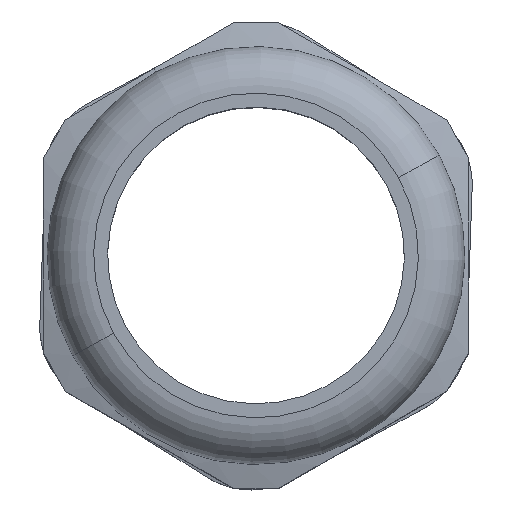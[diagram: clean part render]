
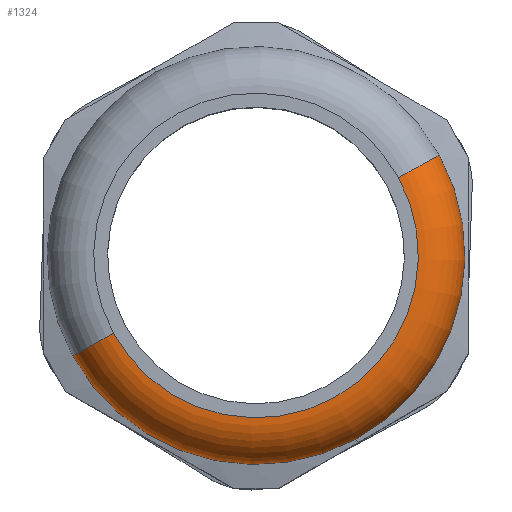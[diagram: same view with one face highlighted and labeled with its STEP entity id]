
A CAD part, top view. The second image highlights one B-rep face of the part: STEP entity #1324.
In plain terms, the highlighted toroidal (fillet/blend) face has major radius 20.9 mm and minor radius 6 mm.
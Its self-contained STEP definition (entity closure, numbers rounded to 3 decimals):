
#1259=CARTESIAN_POINT('Axis2P3D Location',(0.,0.,48.5)) ;
#1263=CARTESIAN_POINT('Vertex',(-18.341,-10.02,48.5)) ;
#1265=CARTESIAN_POINT('Vertex',(18.341,10.02,48.5)) ;
#1294=CARTESIAN_POINT('Axis2P3D Location',(0.,0.,42.5)) ;
#1299=CARTESIAN_POINT('Axis2P3D Location',(-18.341,-10.02,42.5)) ;
#1303=CARTESIAN_POINT('Vertex',(-23.607,-12.897,42.5)) ;
#1306=CARTESIAN_POINT('Axis2P3D Location',(0.,0.,42.5)) ;
#1310=CARTESIAN_POINT('Vertex',(23.607,12.897,42.5)) ;
#1313=CARTESIAN_POINT('Axis2P3D Location',(18.341,10.02,42.5)) ;
#1260=DIRECTION('Axis2P3D Direction',(0.,0.,1.)) ;
#1295=DIRECTION('Axis2P3D Direction',(0.,0.,1.)) ;
#1296=DIRECTION('Axis2P3D XDirection',(0.878,0.479,0.)) ;
#1300=DIRECTION('Axis2P3D Direction',(-0.479,0.878,0.)) ;
#1307=DIRECTION('Axis2P3D Direction',(0.,0.,1.)) ;
#1314=DIRECTION('Axis2P3D Direction',(0.479,-0.878,0.)) ;
#1261=AXIS2_PLACEMENT_3D('Circle Axis2P3D',#1259,#1260,$) ;
#1297=AXIS2_PLACEMENT_3D('Torus Axis2P3D',#1294,#1295,#1296) ;
#1301=AXIS2_PLACEMENT_3D('Circle Axis2P3D',#1299,#1300,$) ;
#1308=AXIS2_PLACEMENT_3D('Circle Axis2P3D',#1306,#1307,$) ;
#1315=AXIS2_PLACEMENT_3D('Circle Axis2P3D',#1313,#1314,$) ;
#1319=ORIENTED_EDGE('',*,*,#1267,.F.) ;
#1320=ORIENTED_EDGE('',*,*,#1305,.T.) ;
#1321=ORIENTED_EDGE('',*,*,#1312,.T.) ;
#1322=ORIENTED_EDGE('',*,*,#1317,.F.) ;
#1324=ADVANCED_FACE('\X2\51E04F554F53\X0\.2',(#1323),#1298,.T.) ;
#1262=CIRCLE('generated circle',#1261,20.9) ;
#1302=CIRCLE('generated circle',#1301,6.) ;
#1309=CIRCLE('generated circle',#1308,26.9) ;
#1316=CIRCLE('generated circle',#1315,6.) ;
#1298=TOROIDAL_SURFACE('homeo Torus',#1297,20.9,6.) ;
#1267=EDGE_CURVE('',#1264,#1266,#1262,.T.) ;
#1305=EDGE_CURVE('',#1264,#1304,#1302,.F.) ;
#1312=EDGE_CURVE('',#1304,#1311,#1309,.T.) ;
#1317=EDGE_CURVE('',#1266,#1311,#1316,.F.) ;
#1318=EDGE_LOOP('',(#1319,#1320,#1321,#1322)) ;
#1323=FACE_OUTER_BOUND('',#1318,.T.) ;
#1264=VERTEX_POINT('',#1263) ;
#1266=VERTEX_POINT('',#1265) ;
#1304=VERTEX_POINT('',#1303) ;
#1311=VERTEX_POINT('',#1310) ;
